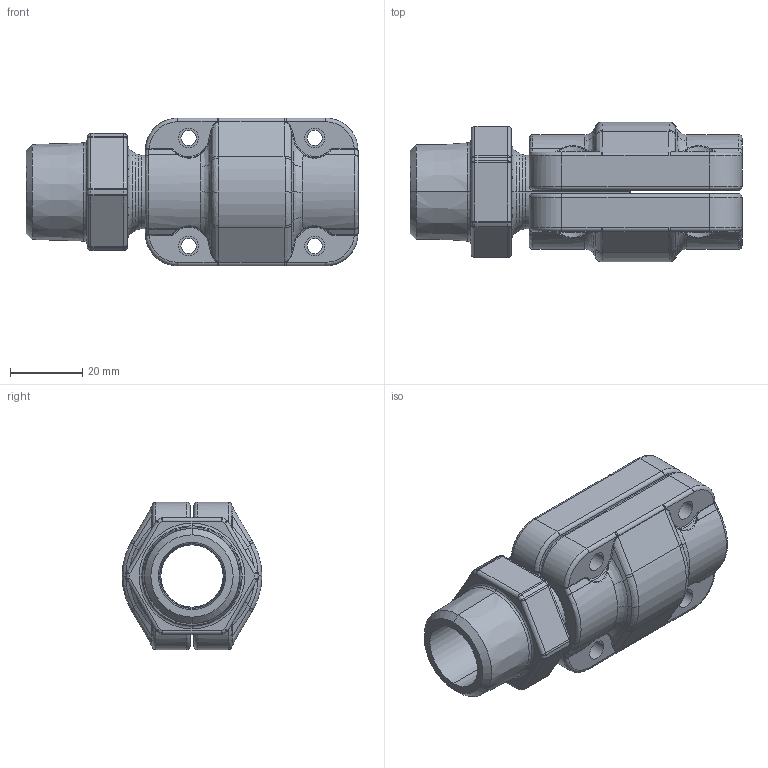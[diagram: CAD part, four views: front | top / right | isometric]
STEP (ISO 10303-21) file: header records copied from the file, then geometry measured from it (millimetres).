
FILE_DESCRIPTION((''),'2;1');
FILE_NAME('AU15111799_ASM_4_ASM','2017-05-15T',('Administrator'),(''),'PRO/ENGINEER BY PARAMETRIC TECHNOLOGY CORPORATION, 2009360','PRO/ENGINEER BY PARAMETRIC TECHNOLOGY CORPORATION, 2009360','');
FILE_SCHEMA(('AUTOMOTIVE_DESIGN_CC2 { 1 2 10303 214 -1 1 5 2 }'));
Length unit declared in the file: millimetre
Products named in the file (5): AU15111700_1; 201510020000_38_1; 201510020001_10_1; 2015100200_ASM_1_ASM; AU15111799_ASM_4_ASM
Assembly tree (4 placements, depth 3):
  AU15111799_ASM_4_ASM
    AU15111700_1
    2015100200_ASM_1_ASM
      201510020000_38_1
      201510020001_10_1
Bounding box: 92.09 x 38.8 x 41 mm (x, y, z)
Volume: 56898.4 mm3; surface area: 27071.3 mm2
Topology: 3 solids, 9 shells, 476 faces, 1123 edges, 636 vertices
Faces by surface type: cylinder 146, bspline 138, torus 92, plane 48, sphere 32, cone 20
Entity records: 22930 total; most frequent: CARTESIAN_POINT 8823, ORIENTED_EDGE 2184, DIRECTION 1872, PRESENTATION_STYLE_ASSIGNMENT 1229, STYLED_ITEM 1095, CURVE_STYLE 1092, EDGE_CURVE 1092, AXIS2_PLACEMENT_3D 816
